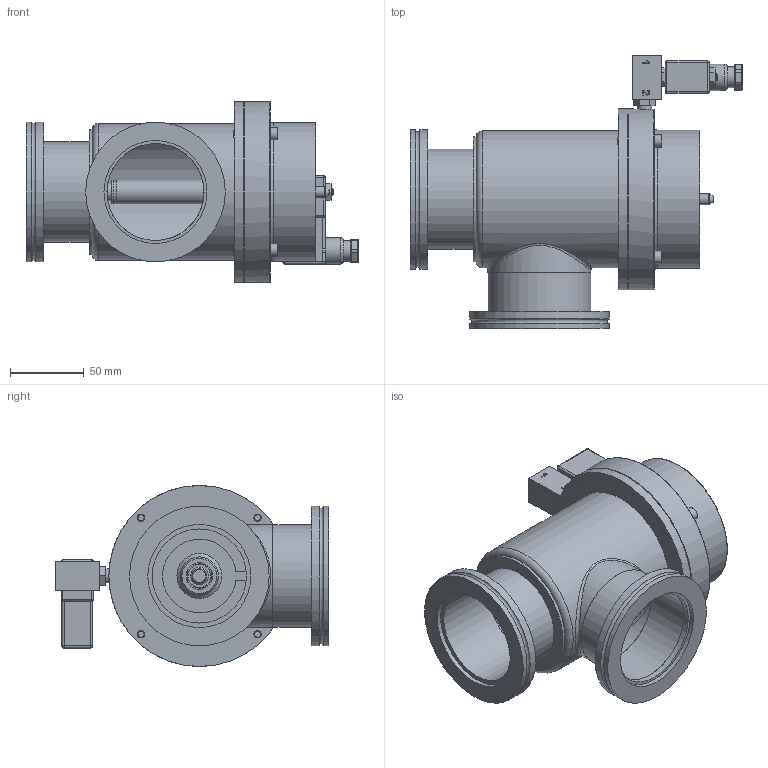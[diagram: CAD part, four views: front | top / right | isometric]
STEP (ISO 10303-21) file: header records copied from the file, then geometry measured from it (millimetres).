
FILE_DESCRIPTION(/* description */ (''),/* implementation_level */ '2;1');
FILE_NAME(/* name */ '1141049291_203.stp',/* time_stamp */ '2013-07-24T15:57:14+02:00',/* author */ (''),/* organization */ (''),/* preprocessor_version */ 'ST-DEVELOPER v11',/* originating_system */ 'SIEMENS PLM Software NX 7.5',/* authorisation */ '');
FILE_SCHEMA (('AP203_CONFIGURATION_CONTROLLED_3D_DESIGN_OF_MECHANICAL_PARTS_AND_ASSEMBLIES_MIM_LF'));
Length unit declared in the file: millimetre
Products named in the file (18): 467863; 467864; 559132; 547308_17859ID; 547290; 521644; 547368_20294ID; n-7604-110; 326371.1; 254383; 259415.2; 243267.7; N-6013-443.2; 224796.1; 547281_MODEL; n-8501-300_MODELNX-ARRAGMNTArrangement 1; 81737-r1.4_NX-ARRAGMNTMASSBILD; 703990
Assembly tree (21 placements, depth 4):
  703990
    224796.1  x4
    N-6013-443.2  x2
    81737-r1.4_NX-ARRAGMNTMASSBILD
      326371.1
      n-7604-110
      n-8501-300_MODELNX-ARRAGMNTArrangement 1
        467864
        467863
    243267.7
    259415.2
    254383
    547281_MODEL
      547368_20294ID
      521644
      547290
      547308_17859ID
      559132
Bounding box: 225.65 x 186 x 123 mm (x, y, z)
Volume: 494406.5 mm3; surface area: 240239.4 mm2
Topology: 26 solids, 26 shells, 521 faces, 1181 edges, 753 vertices
Faces by surface type: plane 276, cylinder 147, torus 38, cone 32, sphere 12, extrusion 10, bspline 6
Full cylindrical faces by diameter (mm): 3 x4, 3.1 x1, 3.3 x2, 4 x3, 4.16 x4, 4.2 x8, 4.5 x2, 4.6 x1, 4.7 x2, 5 x9, 5.5 x5, 7 x1, 7.4 x1, 7.5 x2, 8.5 x5, 8.611 x1, 9 x2, 9.728 x2, 10.1 x1, 12 x1, 14 x1, 15.975 x3, 16.5 x2, 18 x1, 18.009 x1, 20.45 x1, 26 x1, 30.5 x1, 64 x1, 66 x3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
Entity records: 16766 total; most frequent: CARTESIAN_POINT 3872, DIRECTION 1918, ORIENTED_EDGE 1698, EDGE_CURVE 849, AXIS2_PLACEMENT_3D 751, EDGE_LOOP 685, VERTEX_POINT 622, ADVANCED_FACE 445
